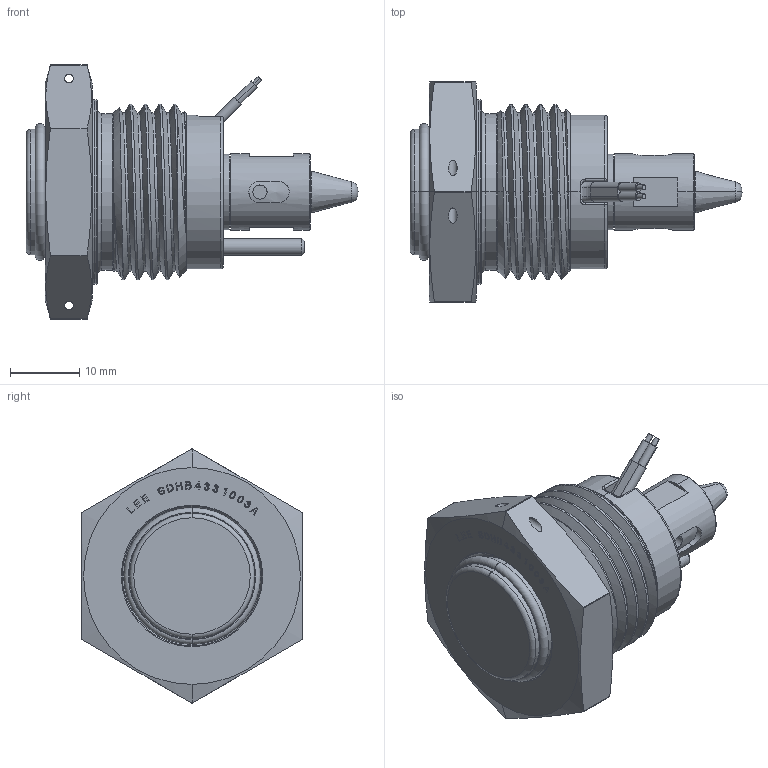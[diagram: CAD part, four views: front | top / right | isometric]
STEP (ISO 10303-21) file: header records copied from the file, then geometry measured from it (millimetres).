
FILE_DESCRIPTION(('Creo Elements/Direct Modeling STEP Export'),'2;1');
FILE_NAME('SDHB4331003A.stp','2021-04-08T 9:13:24',(''),(''),'Creo Elements/Direct Modeling STEP processor for AP214 (Solid Model)','Creo Elements/Direct Modeling 18.1 03-Mar-2012 (C) Parametric Technology GmbH','');
FILE_SCHEMA(('AUTOMOTIVE_DESIGN { 1 0 10303 214 1 1 1 1 }'));
Length unit declared in the file: millimetre
Products named in the file (2): SDHB4331003A
Assembly tree (1 placements, depth 2):
  SDHB4331003A
    SDHB4331003A
Bounding box: 47.83 x 31.75 x 36.62 mm (x, y, z)
Volume: 15873.9 mm3; surface area: 5483.1 mm2
Topology: 1 solids, 1 shells, 781 faces, 2152 edges, 1414 vertices
Faces by surface type: plane 630, cylinder 77, torus 31, cone 23, bspline 16, extrusion 2, sphere 2
Entity records: 31503 total; most frequent: CARTESIAN_POINT 11279, ORIENTED_EDGE 4296, DIRECTION 3518, EDGE_CURVE 2148, VECTOR 1804, LINE 1802, VERTEX_POINT 1414, AXIS2_PLACEMENT_3D 857
